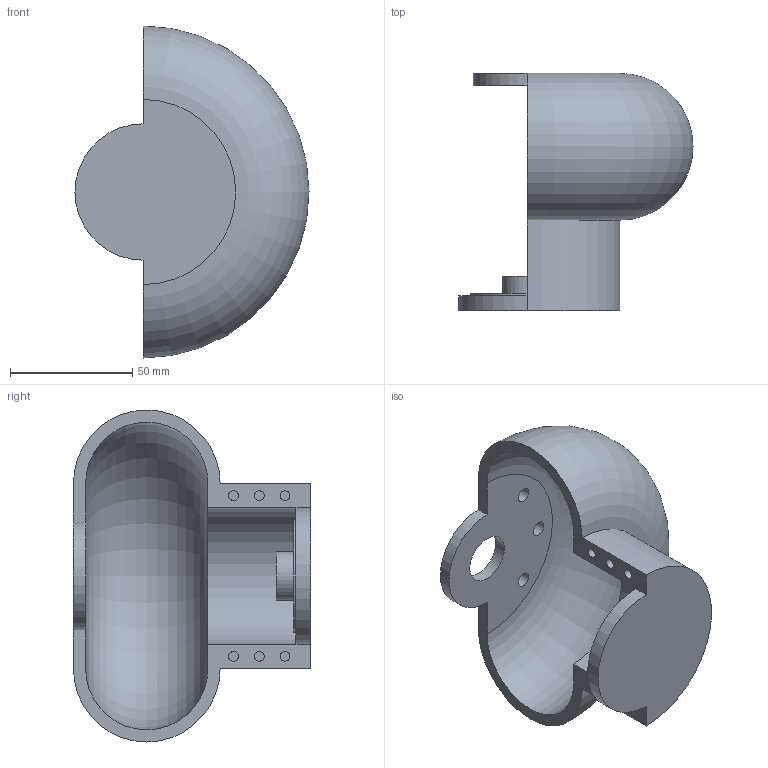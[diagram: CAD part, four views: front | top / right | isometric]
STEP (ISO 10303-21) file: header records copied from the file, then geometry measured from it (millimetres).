
FILE_DESCRIPTION(/* description */ (''),/* implementation_level */ '2;1');
FILE_NAME(/* name */ '',/* time_stamp */ '2025-07-04T12:36:05+03:00',/* author */ ('Inspektor_Kot'),/* organization */ (''),/* preprocessor_version */ 'ST-DEVELOPER v20',/* originating_system */ 'Autodesk Inventor 2025',/* authorisation */ '');
FILE_SCHEMA (('AUTOMOTIVE_DESIGN { 1 0 10303 214 3 1 1 }'));
Length unit declared in the file: millimetre
Products named in the file (1): Козырек
Bounding box: 95.71 x 97 x 135.71 mm (x, y, z)
Volume: 149643.7 mm3; surface area: 54212.4 mm2
Topology: 1 solids, 1 shells, 33 faces, 67 edges, 44 vertices
Faces by surface type: cylinder 16, plane 15, torus 2
Full cylindrical faces by diameter (mm): 4 x6, 6 x3, 20 x2, 46 x1
Entity records: 943 total; most frequent: DIRECTION 174, CARTESIAN_POINT 145, ORIENTED_EDGE 134, AXIS2_PLACEMENT_3D 73, EDGE_CURVE 67, EDGE_LOOP 49, VERTEX_POINT 44, CIRCLE 39
